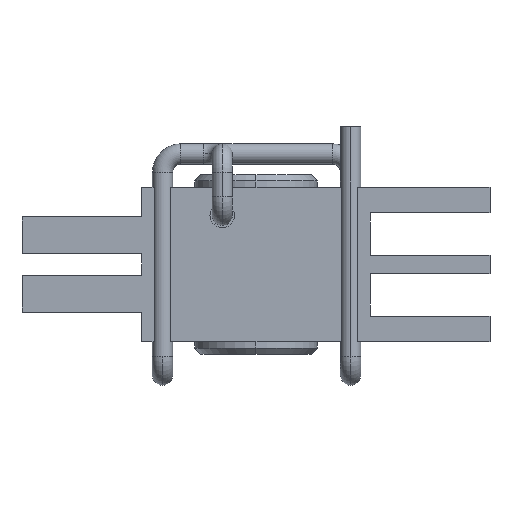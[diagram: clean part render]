
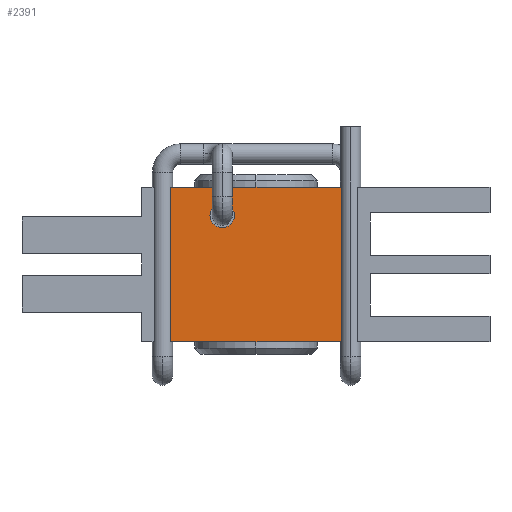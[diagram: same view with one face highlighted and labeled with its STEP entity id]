
A CAD part, left-side view. The second image highlights one B-rep face of the part: STEP entity #2391.
In plain terms, the highlighted planar face has unit normal (-1, 0, 0).
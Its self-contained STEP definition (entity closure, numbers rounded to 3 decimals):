
#96 = CARTESIAN_POINT ( 'NONE',  ( -12.6, 13.85, 0. ) ) ;
#105 = VERTEX_POINT ( 'NONE', #1680 ) ;
#106 = EDGE_CURVE ( 'NONE', #895, #690, #436, .T. ) ;
#190 = DIRECTION ( 'NONE',  ( 0., 0., 1. ) ) ;
#254 = FACE_OUTER_BOUND ( 'NONE', #2796, .T. ) ;
#283 = VECTOR ( 'NONE', #190, 1000. ) ;
#327 = LINE ( 'NONE', #96, #2800 ) ;
#422 = CARTESIAN_POINT ( 'NONE',  ( -12.6, -13.85, 25.2 ) ) ;
#436 = LINE ( 'NONE', #1439, #283 ) ;
#460 = VERTEX_POINT ( 'NONE', #1026 ) ;
#503 = EDGE_LOOP ( 'NONE', ( #2653, #3024 ) ) ;
#627 = CIRCLE ( 'NONE', #2251, 2. ) ;
#690 = VERTEX_POINT ( 'NONE', #422 ) ;
#860 = AXIS2_PLACEMENT_3D ( 'NONE', #2761, #2660, #2600 ) ;
#895 = VERTEX_POINT ( 'NONE', #1509 ) ;
#1026 = CARTESIAN_POINT ( 'NONE',  ( -12.6, 3.5, 20.6 ) ) ;
#1027 = EDGE_CURVE ( 'NONE', #105, #2542, #327, .T. ) ;
#1032 = LINE ( 'NONE', #2573, #2716 ) ;
#1074 = CARTESIAN_POINT ( 'NONE',  ( -12.6, 13.85, 25.2 ) ) ;
#1136 = ORIENTED_EDGE ( 'NONE', *, *, #1926, .T. ) ;
#1260 = CARTESIAN_POINT ( 'NONE',  ( -12.6, 38.1, 0. ) ) ;
#1425 = AXIS2_PLACEMENT_3D ( 'NONE', #1504, #1713, #1971 ) ;
#1439 = CARTESIAN_POINT ( 'NONE',  ( -12.6, -13.85, 25.2 ) ) ;
#1504 = CARTESIAN_POINT ( 'NONE',  ( -12.6, 38.1, 25.2 ) ) ;
#1509 = CARTESIAN_POINT ( 'NONE',  ( -12.6, -13.85, 0. ) ) ;
#1636 = CIRCLE ( 'NONE', #860, 2. ) ;
#1680 = CARTESIAN_POINT ( 'NONE',  ( -12.6, 13.85, 0. ) ) ;
#1696 = CARTESIAN_POINT ( 'NONE',  ( -12.6, 7.5, 20.6 ) ) ;
#1713 = DIRECTION ( 'NONE',  ( 1., 0., 0. ) ) ;
#1821 = ORIENTED_EDGE ( 'NONE', *, *, #1027, .F. ) ;
#1920 = DIRECTION ( 'NONE',  ( 0., -1., 0. ) ) ;
#1926 = EDGE_CURVE ( 'NONE', #105, #895, #2497, .T. ) ;
#1971 = DIRECTION ( 'NONE',  ( 0., 1., 0. ) ) ;
#2001 = EDGE_CURVE ( 'NONE', #2542, #690, #1032, .T. ) ;
#2021 = ORIENTED_EDGE ( 'NONE', *, *, #2001, .F. ) ;
#2082 = DIRECTION ( 'NONE',  ( 0., 0., 1. ) ) ;
#2129 = CARTESIAN_POINT ( 'NONE',  ( -12.6, 5.5, 20.6 ) ) ;
#2176 = EDGE_CURVE ( 'NONE', #460, #2417, #627, .T. ) ;
#2210 = DIRECTION ( 'NONE',  ( 0., -1., 0. ) ) ;
#2251 = AXIS2_PLACEMENT_3D ( 'NONE', #2129, #2665, #1920 ) ;
#2343 = DIRECTION ( 'NONE',  ( 0., -1., 0. ) ) ;
#2391 = ADVANCED_FACE ( 'NONE', ( #2946, #254 ), #2997, .F. ) ;
#2417 = VERTEX_POINT ( 'NONE', #1696 ) ;
#2497 = LINE ( 'NONE', #1260, #2617 ) ;
#2542 = VERTEX_POINT ( 'NONE', #1074 ) ;
#2573 = CARTESIAN_POINT ( 'NONE',  ( -12.6, 38.1, 25.2 ) ) ;
#2589 = EDGE_CURVE ( 'NONE', #2417, #460, #1636, .T. ) ;
#2600 = DIRECTION ( 'NONE',  ( 0., -1., 0. ) ) ;
#2617 = VECTOR ( 'NONE', #2210, 1000. ) ;
#2653 = ORIENTED_EDGE ( 'NONE', *, *, #2176, .F. ) ;
#2660 = DIRECTION ( 'NONE',  ( -1., 0., 0. ) ) ;
#2665 = DIRECTION ( 'NONE',  ( -1., 0., 0. ) ) ;
#2716 = VECTOR ( 'NONE', #2343, 1000. ) ;
#2761 = CARTESIAN_POINT ( 'NONE',  ( -12.6, 5.5, 20.6 ) ) ;
#2796 = EDGE_LOOP ( 'NONE', ( #1136, #3168, #2021, #1821 ) ) ;
#2800 = VECTOR ( 'NONE', #2082, 1000. ) ;
#2946 = FACE_BOUND ( 'NONE', #503, .T. ) ;
#2997 = PLANE ( 'NONE',  #1425 ) ;
#3024 = ORIENTED_EDGE ( 'NONE', *, *, #2589, .F. ) ;
#3168 = ORIENTED_EDGE ( 'NONE', *, *, #106, .T. ) ;
